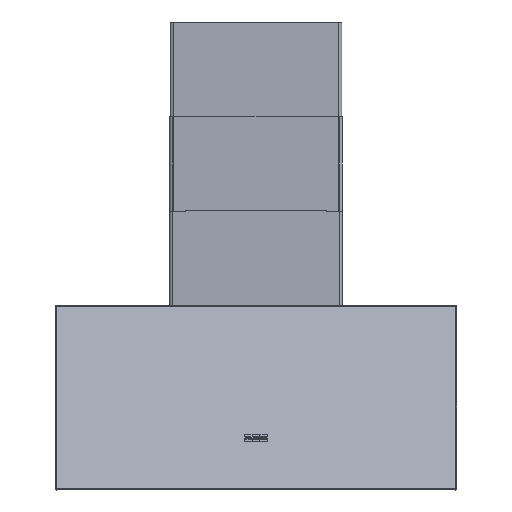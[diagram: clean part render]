
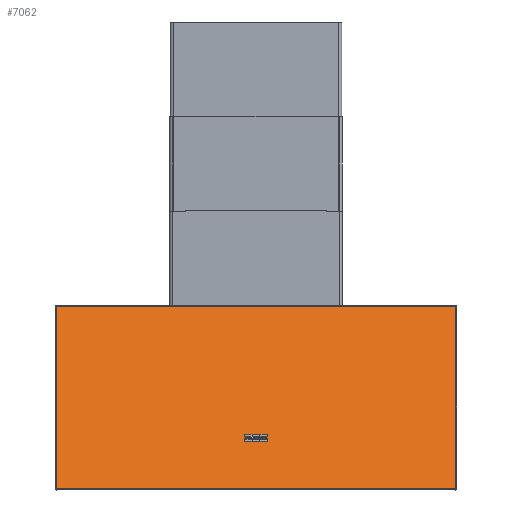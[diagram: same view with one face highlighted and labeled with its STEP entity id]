
A CAD part, front view. The second image highlights one B-rep face of the part: STEP entity #7062.
In plain terms, the highlighted planar face has unit normal (0, -0.936, 0.351) as drawn and (0, 0.351, 0.936) by its records, which use the part's own axes.
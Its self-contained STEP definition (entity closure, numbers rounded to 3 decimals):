
#7062=ADVANCED_FACE('',(#10164),#46100,.T.);
#10164=FACE_OUTER_BOUND('',#13004,.T.);
#13004=EDGE_LOOP('',(#23112,#23113,#23114,#23115,#23116,#23117,#23118,#23119));
#23112=ORIENTED_EDGE('',*,*,#32891,.T.);
#23113=ORIENTED_EDGE('',*,*,#32888,.F.);
#23114=ORIENTED_EDGE('',*,*,#32897,.T.);
#23115=ORIENTED_EDGE('',*,*,#32896,.T.);
#23116=ORIENTED_EDGE('',*,*,#32895,.T.);
#23117=ORIENTED_EDGE('',*,*,#32894,.T.);
#23118=ORIENTED_EDGE('',*,*,#32893,.T.);
#23119=ORIENTED_EDGE('',*,*,#32892,.T.);
#32888=EDGE_CURVE('',#43383,#43384,#38772,.T.);
#32891=EDGE_CURVE('',#43386,#43384,#38775,.T.);
#32892=EDGE_CURVE('',#43387,#43386,#38776,.T.);
#32893=EDGE_CURVE('',#43388,#43387,#38777,.T.);
#32894=EDGE_CURVE('',#43389,#43388,#38778,.T.);
#32895=EDGE_CURVE('',#43390,#43389,#38779,.T.);
#32896=EDGE_CURVE('',#43391,#43390,#38780,.T.);
#32897=EDGE_CURVE('',#43383,#43391,#38781,.T.);
#38772=B_SPLINE_CURVE_WITH_KNOTS('',1,(#87587,#87588),.UNSPECIFIED.,.F.,
 .F.,(2,2),(-339.735,0.),.UNSPECIFIED.);
#38775=B_SPLINE_CURVE_WITH_KNOTS('',1,(#87593,#87594),.UNSPECIFIED.,.F.,
 .F.,(2,2),(-2.,0.),.UNSPECIFIED.);
#38776=B_SPLINE_CURVE_WITH_KNOTS('',1,(#87595,#87596),.UNSPECIFIED.,.F.,
 .F.,(2,2),(-1.039,0.),.UNSPECIFIED.);
#38777=B_SPLINE_CURVE_WITH_KNOTS('',1,(#87597,#87598),.UNSPECIFIED.,.F.,
 .F.,(2,2),(-691.,0.),.UNSPECIFIED.);
#38778=B_SPLINE_CURVE_WITH_KNOTS('',1,(#87599,#87600),.UNSPECIFIED.,.F.,
 .F.,(2,2),(-1.039,0.),.UNSPECIFIED.);
#38779=B_SPLINE_CURVE_WITH_KNOTS('',1,(#87601,#87602),.UNSPECIFIED.,.F.,
 .F.,(2,2),(-2.,0.),.UNSPECIFIED.);
#38780=B_SPLINE_CURVE_WITH_KNOTS('',1,(#87603,#87604),.UNSPECIFIED.,.F.,
 .F.,(2,2),(-339.735,0.),.UNSPECIFIED.);
#38781=B_SPLINE_CURVE_WITH_KNOTS('',1,(#87605,#87606),.UNSPECIFIED.,.F.,
 .F.,(2,2),(-695.,0.),.UNSPECIFIED.);
#43383=VERTEX_POINT('',#87243);
#43384=VERTEX_POINT('',#87244);
#43386=VERTEX_POINT('',#87246);
#43387=VERTEX_POINT('',#87247);
#43388=VERTEX_POINT('',#87248);
#43389=VERTEX_POINT('',#87249);
#43390=VERTEX_POINT('',#87250);
#43391=VERTEX_POINT('',#87251);
#46100=PLANE('',#50346);
#50346=AXIS2_PLACEMENT_3D('',#86344,#56137,$);
#56137=DIRECTION('',(0.,0.351,0.936));
#86344=CARTESIAN_POINT('',(-417.084,-30.015,211.256));
#87243=CARTESIAN_POINT('',(-347.5,1.897,199.289));
#87244=CARTESIAN_POINT('',(-347.5,320.,80.));
#87246=CARTESIAN_POINT('',(-345.5,320.,80.));
#87247=CARTESIAN_POINT('',(-345.5,319.027,80.365));
#87248=CARTESIAN_POINT('',(345.5,319.027,80.365));
#87249=CARTESIAN_POINT('',(345.5,320.,80.));
#87250=CARTESIAN_POINT('',(347.5,320.,80.));
#87251=CARTESIAN_POINT('',(347.5,1.897,199.289));
#87587=CARTESIAN_POINT('',(-347.5,1.897,199.289));
#87588=CARTESIAN_POINT('',(-347.5,320.,80.));
#87593=CARTESIAN_POINT('',(-345.5,320.,80.));
#87594=CARTESIAN_POINT('',(-347.5,320.,80.));
#87595=CARTESIAN_POINT('',(-345.5,319.027,80.365));
#87596=CARTESIAN_POINT('',(-345.5,320.,80.));
#87597=CARTESIAN_POINT('',(345.5,319.027,80.365));
#87598=CARTESIAN_POINT('',(-345.5,319.027,80.365));
#87599=CARTESIAN_POINT('',(345.5,320.,80.));
#87600=CARTESIAN_POINT('',(345.5,319.027,80.365));
#87601=CARTESIAN_POINT('',(347.5,320.,80.));
#87602=CARTESIAN_POINT('',(345.5,320.,80.));
#87603=CARTESIAN_POINT('',(347.5,1.897,199.289));
#87604=CARTESIAN_POINT('',(347.5,320.,80.));
#87605=CARTESIAN_POINT('',(-347.5,1.897,199.289));
#87606=CARTESIAN_POINT('',(347.5,1.897,199.289));
